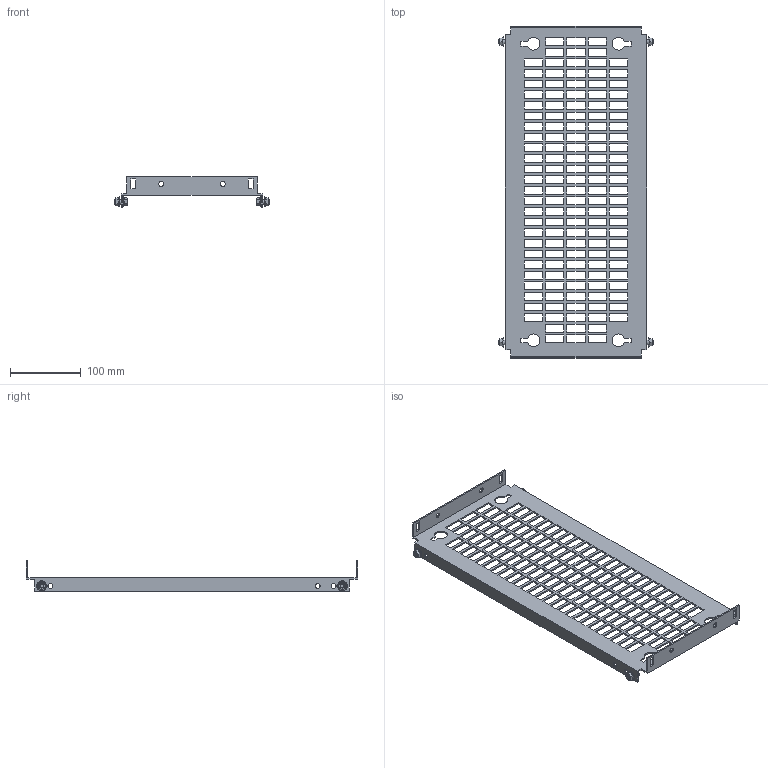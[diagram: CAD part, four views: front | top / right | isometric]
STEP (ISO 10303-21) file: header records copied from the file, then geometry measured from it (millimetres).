
FILE_DESCRIPTION(('Open CASCADE Model'),'2;1');
FILE_NAME('Open CASCADE Shape Model','2025-02-19T16:48:12',('Author'),( 'Open CASCADE'),'Open CASCADE STEP processor 7.8','Open CASCADE 7.8' ,'Unknown');
FILE_SCHEMA(('AUTOMOTIVE_DESIGN { 1 0 10303 214 1 1 1 1 }'));
Length unit declared in the file: millimetre
Products named in the file (4): Compound1; Solid1; Solid2; Solid3
Assembly tree (9 placements, depth 2):
  Compound1
    Solid1
    Solid2  x4
    Solid3  x4
Bounding box: 220 x 469 x 43 mm (x, y, z)
Volume: 157936.3 mm3; surface area: 181943.8 mm2
Topology: 9 solids, 9 shells, 840 faces, 2349 edges, 1531 vertices
Faces by surface type: plane 682, cone 68, bspline 48, cylinder 30, torus 12
Full cylindrical faces by diameter (mm): 5 x4, 6 x8, 7 x14
Entity records: 23422 total; most frequent: CARTESIAN_POINT 4631, ORIENTED_EDGE 4020, DIRECTION 3362, EDGE_CURVE 2010, LINE 1852, VECTOR 1852, VERTEX_POINT 1333, FACE_BOUND 1005
